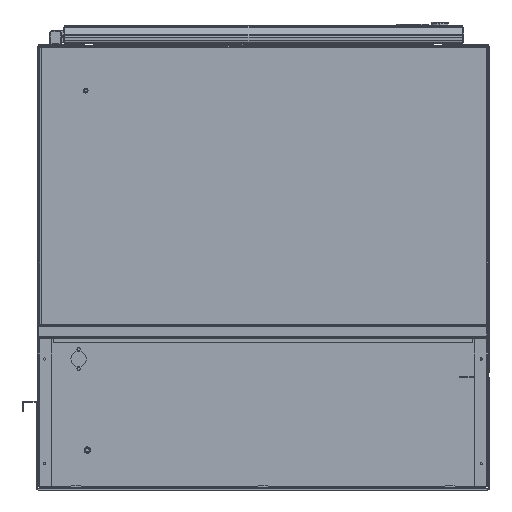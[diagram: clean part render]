
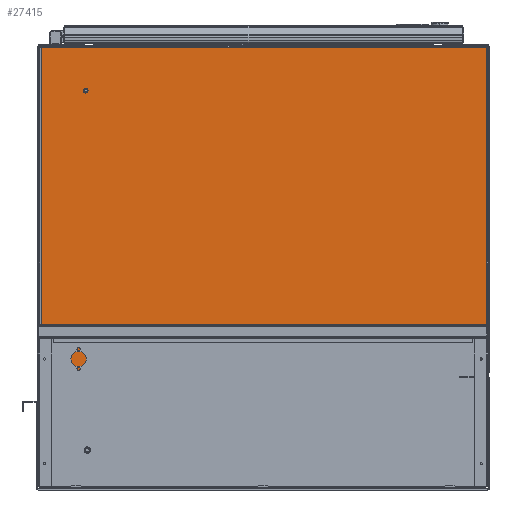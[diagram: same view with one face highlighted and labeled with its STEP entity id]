
A CAD part, front view. The second image highlights one B-rep face of the part: STEP entity #27415.
In plain terms, the highlighted planar face has unit normal (0, -1, 0) as drawn and (0, 1, 0) by its records, which use the part's own axes.
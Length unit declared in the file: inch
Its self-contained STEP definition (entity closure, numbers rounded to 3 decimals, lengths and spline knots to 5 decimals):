
#25794=CARTESIAN_POINT('',(-8.904,0.,5.947));
#25795=DIRECTION('',(0.,-1.,0.));
#25796=DIRECTION('',(-1.,0.,0.));
#25797=AXIS2_PLACEMENT_3D('',#25794,#25795,#25796);
#25799=CARTESIAN_POINT('',(-8.904,0.,5.947));
#25800=DIRECTION('',(0.,-1.,0.));
#25801=DIRECTION('',(1.,0.,0.));
#25802=AXIS2_PLACEMENT_3D('',#25799,#25800,#25801);
#25804=CARTESIAN_POINT('',(-8.904,0.,-5.947));
#25805=DIRECTION('',(0.,-1.,0.));
#25806=DIRECTION('',(-1.,0.,0.));
#25807=AXIS2_PLACEMENT_3D('',#25804,#25805,#25806);
#25809=CARTESIAN_POINT('',(-8.904,0.,-5.947));
#25810=DIRECTION('',(0.,-1.,0.));
#25811=DIRECTION('',(1.,0.,0.));
#25812=AXIS2_PLACEMENT_3D('',#25809,#25810,#25811);
#25814=DIRECTION('',(-1.,0.,0.));
#25815=VECTOR('',#25814,22.282);
#25816=CARTESIAN_POINT('',(11.141,0.,-8.088));
#25817=LINE('',#25816,#25815);
#25854=DIRECTION('',(0.,0.,-1.));
#25855=VECTOR('',#25854,16.176);
#25856=CARTESIAN_POINT('',(-11.141,0.,8.088));
#25857=LINE('',#25856,#25855);
#25890=DIRECTION('',(1.,0.,0.));
#25891=VECTOR('',#25890,22.282);
#25892=CARTESIAN_POINT('',(-11.141,0.,8.088));
#25893=LINE('',#25892,#25891);
#26148=DIRECTION('',(0.,0.,1.));
#26149=VECTOR('',#26148,16.176);
#26150=CARTESIAN_POINT('',(11.141,0.,-8.088));
#26151=LINE('',#26150,#26149);
#27098=CARTESIAN_POINT('',(-9.003,0.,5.947));
#27099=CARTESIAN_POINT('',(-8.805,0.,5.947));
#27100=VERTEX_POINT('',#27098);
#27101=VERTEX_POINT('',#27099);
#27102=CARTESIAN_POINT('',(-9.003,0.,-5.947));
#27103=CARTESIAN_POINT('',(-8.805,0.,-5.947));
#27104=VERTEX_POINT('',#27102);
#27105=VERTEX_POINT('',#27103);
#27114=CARTESIAN_POINT('',(-11.141,0.,8.088));
#27115=CARTESIAN_POINT('',(-11.141,0.,-8.088));
#27116=VERTEX_POINT('',#27114);
#27117=VERTEX_POINT('',#27115);
#27122=CARTESIAN_POINT('',(11.141,0.,-8.088));
#27123=CARTESIAN_POINT('',(11.141,0.,8.088));
#27124=VERTEX_POINT('',#27122);
#27125=VERTEX_POINT('',#27123);
#27388=CARTESIAN_POINT('',(0.,0.,0.));
#27389=DIRECTION('',(0.,1.,0.));
#27390=DIRECTION('',(-1.,0.,0.));
#27391=AXIS2_PLACEMENT_3D('',#27388,#27389,#27390);
#27392=PLANE('',#27391);
#27394=ORIENTED_EDGE('',*,*,#27393,.F.);
#27396=ORIENTED_EDGE('',*,*,#27395,.T.);
#27398=ORIENTED_EDGE('',*,*,#27397,.F.);
#27400=ORIENTED_EDGE('',*,*,#27399,.T.);
#27401=EDGE_LOOP('',(#27394,#27396,#27398,#27400));
#27402=FACE_OUTER_BOUND('',#27401,.F.);
#27404=ORIENTED_EDGE('',*,*,#27403,.F.);
#27406=ORIENTED_EDGE('',*,*,#27405,.F.);
#27407=EDGE_LOOP('',(#27404,#27406));
#27408=FACE_BOUND('',#27407,.F.);
#27410=ORIENTED_EDGE('',*,*,#27409,.F.);
#27412=ORIENTED_EDGE('',*,*,#27411,.F.);
#27413=EDGE_LOOP('',(#27410,#27412));
#27414=FACE_BOUND('',#27413,.F.);
#27415=ADVANCED_FACE('',(#27402,#27408,#27414),#27392,.T.);
#25798=CIRCLE('',#25797,0.099);
#25803=CIRCLE('',#25802,0.099);
#25808=CIRCLE('',#25807,0.099);
#25813=CIRCLE('',#25812,0.099);
#27393=EDGE_CURVE('',#27124,#27117,#25817,.T.);
#27395=EDGE_CURVE('',#27124,#27125,#26151,.T.);
#27397=EDGE_CURVE('',#27116,#27125,#25893,.T.);
#27399=EDGE_CURVE('',#27116,#27117,#25857,.T.);
#27403=EDGE_CURVE('',#27100,#27101,#25798,.T.);
#27405=EDGE_CURVE('',#27101,#27100,#25803,.T.);
#27409=EDGE_CURVE('',#27104,#27105,#25808,.T.);
#27411=EDGE_CURVE('',#27105,#27104,#25813,.T.);
